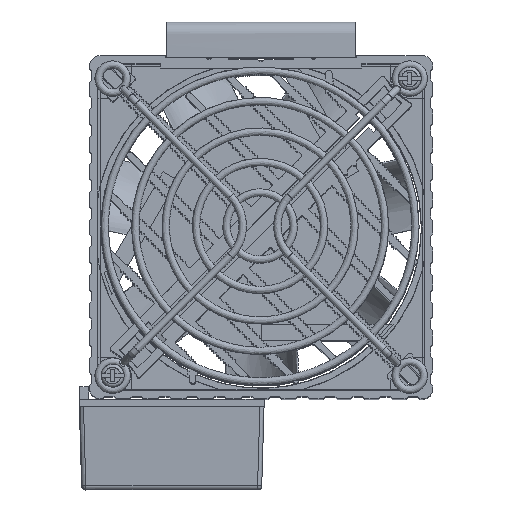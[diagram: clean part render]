
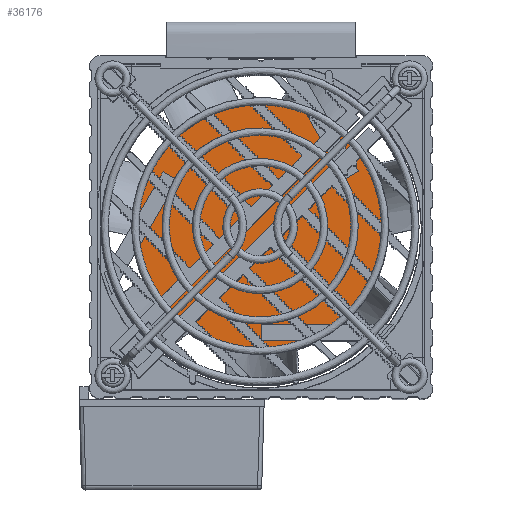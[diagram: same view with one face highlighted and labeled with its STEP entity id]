
A CAD part, top view. The second image highlights one B-rep face of the part: STEP entity #36176.
In plain terms, the highlighted planar face has unit normal (0, 0, 1).
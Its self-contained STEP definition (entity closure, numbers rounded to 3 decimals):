
#552=B_SPLINE_CURVE_WITH_KNOTS('',1,(#109176,#109177),.UNSPECIFIED.,.F.,
 .F.,(2,2),(0.,11.763),.UNSPECIFIED.);
#553=B_SPLINE_CURVE_WITH_KNOTS('',1,(#109178,#109179),.UNSPECIFIED.,.F.,
 .F.,(2,2),(0.,4.),.UNSPECIFIED.);
#554=B_SPLINE_CURVE_WITH_KNOTS('',1,(#109180,#109181),.UNSPECIFIED.,.F.,
 .F.,(2,2),(0.,18.351),.UNSPECIFIED.);
#555=B_SPLINE_CURVE_WITH_KNOTS('',1,(#109188,#109189),.UNSPECIFIED.,.F.,
 .F.,(2,2),(0.,11.763),.UNSPECIFIED.);
#556=B_SPLINE_CURVE_WITH_KNOTS('',1,(#109190,#109191),.UNSPECIFIED.,.F.,
 .F.,(2,2),(0.,4.),.UNSPECIFIED.);
#557=B_SPLINE_CURVE_WITH_KNOTS('',1,(#109192,#109193),.UNSPECIFIED.,.F.,
 .F.,(2,2),(0.,18.351),.UNSPECIFIED.);
#558=B_SPLINE_CURVE_WITH_KNOTS('',1,(#109199,#109200),.UNSPECIFIED.,.F.,
 .F.,(2,2),(0.,11.763),.UNSPECIFIED.);
#559=B_SPLINE_CURVE_WITH_KNOTS('',1,(#109201,#109202),.UNSPECIFIED.,.F.,
 .F.,(2,2),(0.,4.),.UNSPECIFIED.);
#560=B_SPLINE_CURVE_WITH_KNOTS('',1,(#109203,#109204),.UNSPECIFIED.,.F.,
 .F.,(2,2),(0.,18.351),.UNSPECIFIED.);
#36176=ADVANCED_FACE('',(#38730),#94711,.T.);
#38730=FACE_OUTER_BOUND('',#41302,.T.);
#41302=EDGE_LOOP('',(#44499,#44500,#44501,#44502,#44503,#44504,#44505,#44506,
#44507,#44508,#44509,#44510,#44511));
#44499=ORIENTED_EDGE('',*,*,#59158,.T.);
#44500=ORIENTED_EDGE('',*,*,#59159,.T.);
#44501=ORIENTED_EDGE('',*,*,#59160,.T.);
#44502=ORIENTED_EDGE('',*,*,#59161,.T.);
#44503=ORIENTED_EDGE('',*,*,#59162,.T.);
#44504=ORIENTED_EDGE('',*,*,#59163,.T.);
#44505=ORIENTED_EDGE('',*,*,#59164,.T.);
#44506=ORIENTED_EDGE('',*,*,#59165,.T.);
#44507=ORIENTED_EDGE('',*,*,#59166,.T.);
#44508=ORIENTED_EDGE('',*,*,#59167,.T.);
#44509=ORIENTED_EDGE('',*,*,#59168,.T.);
#44510=ORIENTED_EDGE('',*,*,#59169,.T.);
#44511=ORIENTED_EDGE('',*,*,#59170,.T.);
#59158=EDGE_CURVE('',#80836,#80837,#552,.T.);
#59159=EDGE_CURVE('',#80837,#80838,#553,.T.);
#59160=EDGE_CURVE('',#80838,#80839,#554,.T.);
#59161=EDGE_CURVE('',#80839,#80840,#73434,.T.);
#59162=EDGE_CURVE('',#80840,#80841,#73435,.T.);
#59163=EDGE_CURVE('',#80841,#80842,#555,.T.);
#59164=EDGE_CURVE('',#80842,#80843,#556,.T.);
#59165=EDGE_CURVE('',#80843,#80844,#557,.T.);
#59166=EDGE_CURVE('',#80844,#80845,#73436,.T.);
#59167=EDGE_CURVE('',#80845,#80846,#558,.T.);
#59168=EDGE_CURVE('',#80846,#80847,#559,.T.);
#59169=EDGE_CURVE('',#80847,#80848,#560,.T.);
#59170=EDGE_CURVE('',#80848,#80836,#73437,.T.);
#73434=(
BOUNDED_CURVE()
B_SPLINE_CURVE(2,(#109182,#109183,#109184),.UNSPECIFIED.,.F.,.F.)
B_SPLINE_CURVE_WITH_KNOTS((3,3),(0.,28.287),.UNSPECIFIED.)
CURVE()
GEOMETRIC_REPRESENTATION_ITEM()
RATIONAL_B_SPLINE_CURVE((1.,0.902,1.))
REPRESENTATION_ITEM('')
);
#73435=(
BOUNDED_CURVE()
B_SPLINE_CURVE(2,(#109185,#109186,#109187),.UNSPECIFIED.,.F.,.F.)
B_SPLINE_CURVE_WITH_KNOTS((3,3),(0.,29.905),.UNSPECIFIED.)
CURVE()
GEOMETRIC_REPRESENTATION_ITEM()
RATIONAL_B_SPLINE_CURVE((1.,0.892,1.))
REPRESENTATION_ITEM('')
);
#73436=(
BOUNDED_CURVE()
B_SPLINE_CURVE(2,(#109194,#109195,#109196,#109197,#109198),
 .UNSPECIFIED.,.F.,.F.)
B_SPLINE_CURVE_WITH_KNOTS((3,2,3),(0.,29.092,58.183),
 .UNSPECIFIED.)
CURVE()
GEOMETRIC_REPRESENTATION_ITEM()
RATIONAL_B_SPLINE_CURVE((1.,0.897,1.,0.897,1.))
REPRESENTATION_ITEM('')
);
#73437=(
BOUNDED_CURVE()
B_SPLINE_CURVE(2,(#109205,#109206,#109207,#109208,#109209),
 .UNSPECIFIED.,.F.,.F.)
B_SPLINE_CURVE_WITH_KNOTS((3,2,3),(0.,29.092,58.183),
 .UNSPECIFIED.)
CURVE()
GEOMETRIC_REPRESENTATION_ITEM()
RATIONAL_B_SPLINE_CURVE((1.,0.897,1.,0.897,1.))
REPRESENTATION_ITEM('')
);
#80836=VERTEX_POINT('',#109163);
#80837=VERTEX_POINT('',#109164);
#80838=VERTEX_POINT('',#109165);
#80839=VERTEX_POINT('',#109166);
#80840=VERTEX_POINT('',#109167);
#80841=VERTEX_POINT('',#109168);
#80842=VERTEX_POINT('',#109169);
#80843=VERTEX_POINT('',#109170);
#80844=VERTEX_POINT('',#109171);
#80845=VERTEX_POINT('',#109172);
#80846=VERTEX_POINT('',#109173);
#80847=VERTEX_POINT('',#109174);
#80848=VERTEX_POINT('',#109175);
#94711=PLANE('',#97642);
#97642=AXIS2_PLACEMENT_3D('',#109162,#100080,$);
#100080=DIRECTION('',(0.,0.,1.));
#109162=CARTESIAN_POINT('',(-140.061,31.574,0.));
#109163=CARTESIAN_POINT('',(-92.965,44.,0.));
#109164=CARTESIAN_POINT('',(-104.728,44.,0.));
#109165=CARTESIAN_POINT('',(-104.728,48.,0.));
#109166=CARTESIAN_POINT('',(-86.377,48.,0.));
#109167=CARTESIAN_POINT('',(-75.35,71.,0.));
#109168=CARTESIAN_POINT('',(-87.41,94.793,0.));
#109169=CARTESIAN_POINT('',(-81.528,84.606,0.));
#109170=CARTESIAN_POINT('',(-84.992,82.606,0.));
#109171=CARTESIAN_POINT('',(-94.168,98.498,0.));
#109172=CARTESIAN_POINT('',(-134.175,74.207,0.));
#109173=CARTESIAN_POINT('',(-128.294,84.394,0.));
#109174=CARTESIAN_POINT('',(-124.83,82.394,0.));
#109175=CARTESIAN_POINT('',(-134.005,66.502,0.));
#109176=CARTESIAN_POINT('',(-92.965,44.,0.));
#109177=CARTESIAN_POINT('',(-104.728,44.,0.));
#109178=CARTESIAN_POINT('',(-104.728,44.,0.));
#109179=CARTESIAN_POINT('',(-104.728,48.,0.));
#109180=CARTESIAN_POINT('',(-104.728,48.,0.));
#109181=CARTESIAN_POINT('',(-86.377,48.,0.));
#109182=CARTESIAN_POINT('',(-86.377,48.,0.));
#109183=CARTESIAN_POINT('',(-75.35,56.857,0.));
#109184=CARTESIAN_POINT('',(-75.35,71.,0.));
#109185=CARTESIAN_POINT('',(-75.35,71.,0.));
#109186=CARTESIAN_POINT('',(-75.35,85.953,0.));
#109187=CARTESIAN_POINT('',(-87.41,94.793,0.));
#109188=CARTESIAN_POINT('',(-87.41,94.793,0.));
#109189=CARTESIAN_POINT('',(-81.528,84.606,0.));
#109190=CARTESIAN_POINT('',(-81.528,84.606,0.));
#109191=CARTESIAN_POINT('',(-84.992,82.606,0.));
#109192=CARTESIAN_POINT('',(-84.992,82.606,0.));
#109193=CARTESIAN_POINT('',(-94.168,98.498,0.));
#109194=CARTESIAN_POINT('',(-94.168,98.498,0.));
#109195=CARTESIAN_POINT('',(-107.727,103.765,0.));
#109196=CARTESIAN_POINT('',(-120.16,96.216,0.));
#109197=CARTESIAN_POINT('',(-132.594,88.667,0.));
#109198=CARTESIAN_POINT('',(-134.175,74.207,0.));
#109199=CARTESIAN_POINT('',(-134.175,74.207,0.));
#109200=CARTESIAN_POINT('',(-128.294,84.394,0.));
#109201=CARTESIAN_POINT('',(-128.294,84.394,0.));
#109202=CARTESIAN_POINT('',(-124.83,82.394,0.));
#109203=CARTESIAN_POINT('',(-124.83,82.394,0.));
#109204=CARTESIAN_POINT('',(-134.005,66.502,0.));
#109205=CARTESIAN_POINT('',(-134.005,66.502,0.));
#109206=CARTESIAN_POINT('',(-131.787,52.126,0.));
#109207=CARTESIAN_POINT('',(-119.033,45.133,0.));
#109208=CARTESIAN_POINT('',(-106.278,38.14,0.));
#109209=CARTESIAN_POINT('',(-92.965,44.,0.));
